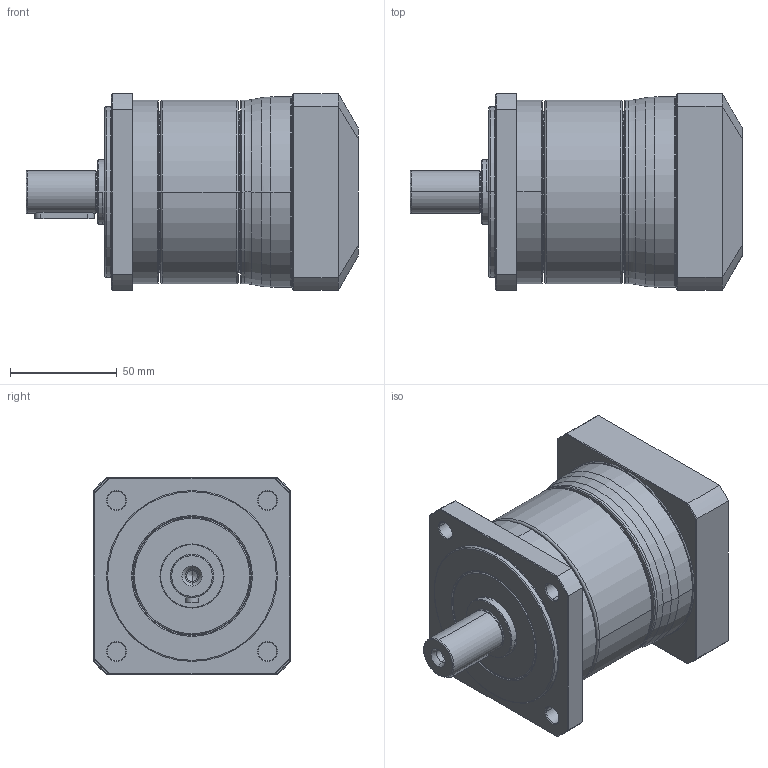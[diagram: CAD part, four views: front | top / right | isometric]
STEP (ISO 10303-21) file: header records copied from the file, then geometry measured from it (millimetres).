
FILE_DESCRIPTION((''),'2;1');
FILE_NAME('PG2-080A_1ST_19_P0411400101_ASM','2016-04-29T',('d01943'),(''),'PRO/ENGINEER BY PARAMETRIC TECHNOLOGY CORPORATION, 2008410','PRO/ENGINEER BY PARAMETRIC TECHNOLOGY CORPORATION, 2008410','');
FILE_SCHEMA(('CONFIG_CONTROL_DESIGN'));
Length unit declared in the file: millimetre
Products named in the file (9): P1326300001; P0250300001; P1324300101; P0350301103; P0941301001; P0503400008; P0411400101; P1702500001; PG2-080A_1ST_19_P0411400101_ASM
Assembly tree (8 placements, depth 2):
  PG2-080A_1ST_19_P0411400101_ASM
    P1326300001
    P0250300001
    P1324300101
    P0350301103
    P0941301001
    P0503400008
    P0411400101
    P1702500001
Bounding box: 155.5 x 92 x 92 mm (x, y, z)
Volume: 608318.6 mm3; surface area: 140978.8 mm2
Topology: 8 solids, 9 shells, 485 faces, 1070 edges, 618 vertices
Faces by surface type: cone 152, cylinder 139, plane 92, torus 88, bspline 14
Entity records: 18068 total; most frequent: CARTESIAN_POINT 7116, DIRECTION 2484, ORIENTED_EDGE 2084, AXIS2_PLACEMENT_3D 1059, EDGE_CURVE 1042, VERTEX_POINT 618, CIRCLE 571, EDGE_LOOP 554
